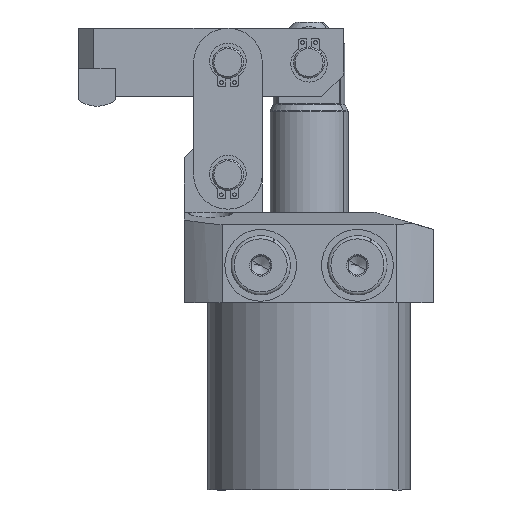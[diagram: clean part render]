
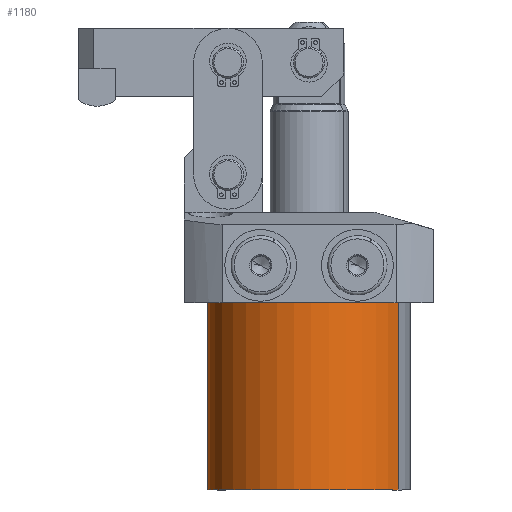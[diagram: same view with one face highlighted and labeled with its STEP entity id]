
A CAD part, left-side view. The second image highlights one B-rep face of the part: STEP entity #1180.
In plain terms, the highlighted cylindrical face has radius 32.5 mm (diameter 65 mm), a partial arc.
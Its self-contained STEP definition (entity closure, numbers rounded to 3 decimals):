
#1119=CARTESIAN_POINT('Vertex',(15.581,28.521,0.)) ;
#1121=CARTESIAN_POINT('Vertex',(-15.581,-28.521,0.)) ;
#1124=CARTESIAN_POINT('Axis2P3D Location',(0.,0.,0.)) ;
#1138=CARTESIAN_POINT('Axis2P3D Location',(0.,0.,44.5)) ;
#1143=CARTESIAN_POINT('Line Origine',(15.581,28.521,30.)) ;
#1147=CARTESIAN_POINT('Vertex',(15.581,28.521,60.)) ;
#1154=CARTESIAN_POINT('Vertex',(-15.581,-28.521,60.)) ;
#1157=CARTESIAN_POINT('Line Origine',(-15.581,-28.521,30.)) ;
#1169=CARTESIAN_POINT('Axis2P3D Location',(0.,0.,60.)) ;
#1125=DIRECTION('Axis2P3D Direction',(0.,0.,-1.)) ;
#1139=DIRECTION('Axis2P3D Direction',(0.,0.,-1.)) ;
#1140=DIRECTION('Axis2P3D XDirection',(-0.479,-0.878,0.)) ;
#1144=DIRECTION('Vector Direction',(0.,0.,-1.)) ;
#1158=DIRECTION('Vector Direction',(0.,0.,-1.)) ;
#1170=DIRECTION('Axis2P3D Direction',(0.,0.,-1.)) ;
#1126=AXIS2_PLACEMENT_3D('Circle Axis2P3D',#1124,#1125,$) ;
#1141=AXIS2_PLACEMENT_3D('Cylinder Axis2P3D',#1138,#1139,#1140) ;
#1171=AXIS2_PLACEMENT_3D('Circle Axis2P3D',#1169,#1170,$) ;
#1175=ORIENTED_EDGE('',*,*,#1128,.F.) ;
#1176=ORIENTED_EDGE('',*,*,#1161,.T.) ;
#1177=ORIENTED_EDGE('',*,*,#1173,.T.) ;
#1178=ORIENTED_EDGE('',*,*,#1149,.F.) ;
#1145=VECTOR('Line Direction',#1144,1.) ;
#1159=VECTOR('Line Direction',#1158,1.) ;
#1180=ADVANCED_FACE('PartBody',(#1179),#1142,.T.) ;
#1127=CIRCLE('generated circle',#1126,32.5) ;
#1172=CIRCLE('generated circle',#1171,32.5) ;
#1142=CYLINDRICAL_SURFACE('generated cylinder',#1141,32.5) ;
#1128=EDGE_CURVE('',#1122,#1120,#1127,.T.) ;
#1149=EDGE_CURVE('',#1120,#1148,#1146,.F.) ;
#1161=EDGE_CURVE('',#1122,#1155,#1160,.F.) ;
#1173=EDGE_CURVE('',#1155,#1148,#1172,.T.) ;
#1174=EDGE_LOOP('',(#1175,#1176,#1177,#1178)) ;
#1179=FACE_OUTER_BOUND('',#1174,.T.) ;
#1146=LINE('Line',#1143,#1145) ;
#1160=LINE('Line',#1157,#1159) ;
#1120=VERTEX_POINT('',#1119) ;
#1122=VERTEX_POINT('',#1121) ;
#1148=VERTEX_POINT('',#1147) ;
#1155=VERTEX_POINT('',#1154) ;
